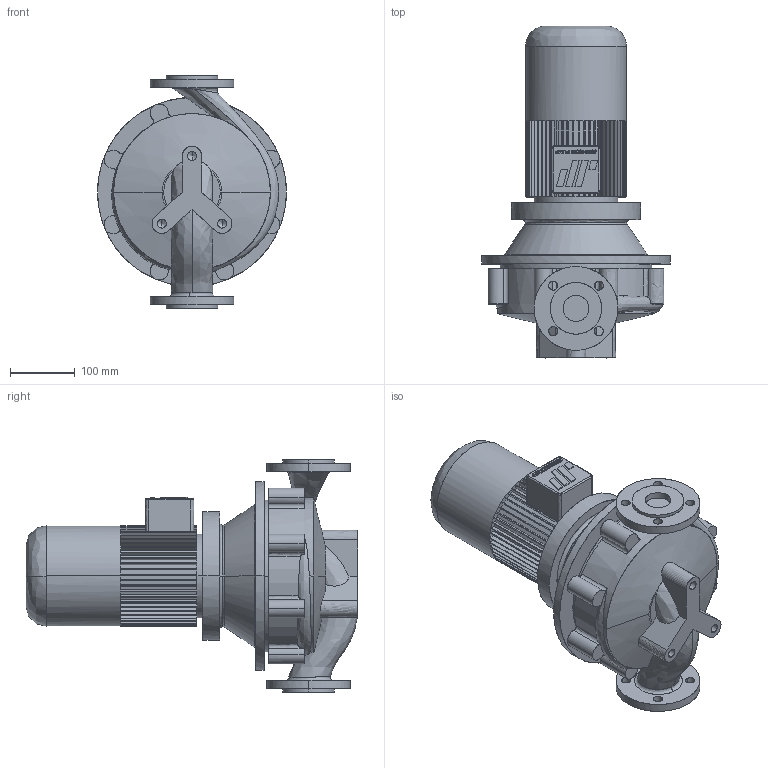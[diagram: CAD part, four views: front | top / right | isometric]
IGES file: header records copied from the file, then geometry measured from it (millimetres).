
Start section: CombiLine
Global section: file name: CLB_40-200_IEC80.igs; native system:  By UGS Corp.; preprocessor: XPlus GENERIC/IGES 3.0; author: Stageplaats; organization: Johnson Pump Water B.V.; date: 20070712.150947; units: millimetre
Bounding box: 293 x 514.5 x 360 mm (x, y, z)
Surface area: 649981.6 mm2 (no closed solid volume)
Topology: 0 solids, 0 shells, 540 faces, 3300 edges, 3294 vertices
Faces by surface type: bspline 540
